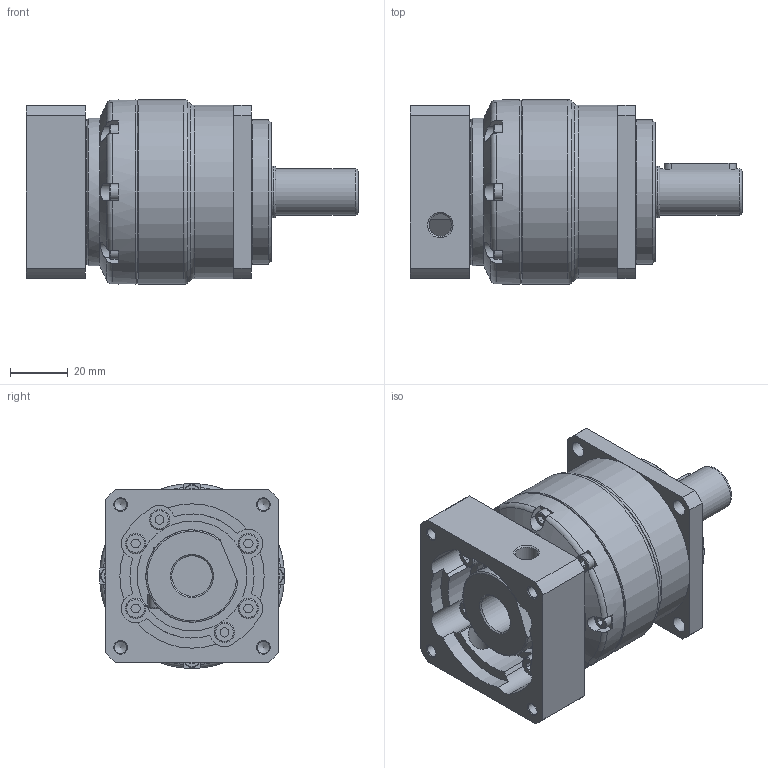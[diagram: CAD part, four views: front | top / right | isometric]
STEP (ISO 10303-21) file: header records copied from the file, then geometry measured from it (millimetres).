
FILE_DESCRIPTION(/* description */ (''),/* implementation_level */ '2;1');
FILE_NAME(/* name */ 'WEB060-L1-50-70-M5-14-31.5.stp',/* time_stamp */ '2025-06-25T21:34:32+08:00',/* author */ (''),/* organization */ (''),/* preprocessor_version */ 'ST-DEVELOPER v16.7',/* originating_system */ 'SIEMENS PLM Software NX 12.0',/* authorisation */ '');
FILE_SCHEMA (('AUTOMOTIVE_DESIGN { 1 0 10303 214 3 1 1 1 }'));
Length unit declared in the file: millimetre
Products named in the file (1): WXHQ55B4116Be17e
Bounding box: 115 x 64 x 64 mm (x, y, z)
Volume: 234185.9 mm3; surface area: 49813.1 mm2
Topology: 4 solids, 5 shells, 331 faces, 811 edges, 528 vertices
Faces by surface type: plane 198, cylinder 81, torus 30, cone 22
Full cylindrical faces by diameter (mm): 4.134 x1, 4.2 x4, 4.8 x2, 5.3 x2, 5.5 x12, 7 x6, 7.8 x2, 8 x1, 8.5 x1, 14 x1, 16 x1, 18 x1, 20 x1, 21 x1, 38 x1, 40 x1, 42 x1, 50 x1, 51 x1, 60 x1, 64 x2
Entity records: 11729 total; most frequent: CARTESIAN_POINT 2212, DIRECTION 1535, ORIENTED_EDGE 1390, EDGE_CURVE 695, AXIS2_PLACEMENT_3D 559, VERTEX_POINT 503, EDGE_LOOP 473, LINE 417
